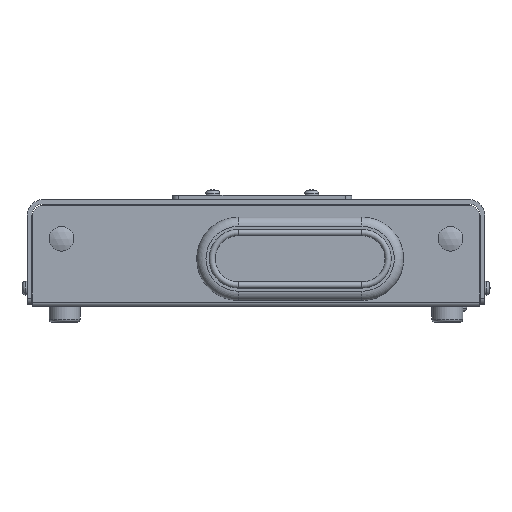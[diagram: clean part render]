
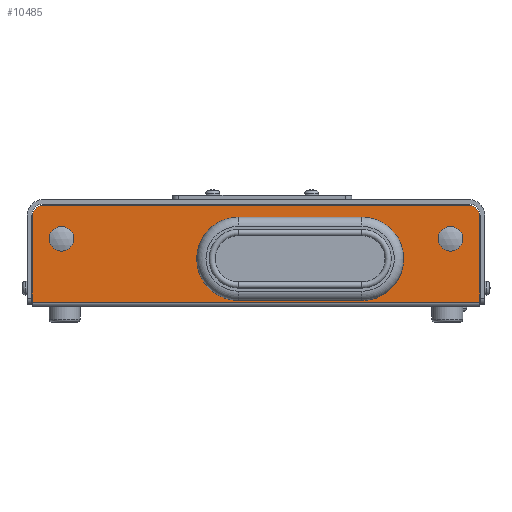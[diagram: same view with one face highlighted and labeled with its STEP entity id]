
A CAD part, left-side view. The second image highlights one B-rep face of the part: STEP entity #10485.
In plain terms, the highlighted planar face has unit normal (-1, 0, 0) as drawn and (0, 1, 0) by its records, which use the part's own axes.
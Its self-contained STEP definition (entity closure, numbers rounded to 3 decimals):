
#362=FACE_BOUND('',#1678,.T.);
#363=FACE_BOUND('',#1679,.T.);
#364=FACE_BOUND('',#1680,.T.);
#608=PLANE('',#11531);
#1098=FACE_OUTER_BOUND('',#1677,.T.);
#1677=EDGE_LOOP('',(#9362,#9363,#9364,#9365,#9366,#9367));
#1678=EDGE_LOOP('',(#9368));
#1679=EDGE_LOOP('',(#9369));
#1680=EDGE_LOOP('',(#9370,#9371,#9372,#9373));
#2652=LINE('',#17864,#3670);
#2653=LINE('',#17868,#3671);
#2654=LINE('',#17870,#3672);
#2655=LINE('',#17872,#3673);
#2656=LINE('',#17882,#3674);
#2657=LINE('',#17885,#3675);
#3670=VECTOR('',#14238,10.);
#3671=VECTOR('',#14241,10.);
#3672=VECTOR('',#14242,10.);
#3673=VECTOR('',#14243,0.67);
#3674=VECTOR('',#14252,10.);
#3675=VECTOR('',#14255,10.);
#4248=CIRCLE('',#11532,4.);
#4249=CIRCLE('',#11533,4.);
#4250=CIRCLE('',#11534,3.25);
#4251=CIRCLE('',#11535,3.25);
#4252=CIRCLE('',#11536,10.);
#4253=CIRCLE('',#11537,10.);
#5170=VERTEX_POINT('',#17862);
#5171=VERTEX_POINT('',#17863);
#5172=VERTEX_POINT('',#17865);
#5173=VERTEX_POINT('',#17867);
#5174=VERTEX_POINT('',#17869);
#5175=VERTEX_POINT('',#17871);
#5176=VERTEX_POINT('',#17874);
#5177=VERTEX_POINT('',#17876);
#5178=VERTEX_POINT('',#17878);
#5179=VERTEX_POINT('',#17879);
#5180=VERTEX_POINT('',#17881);
#5181=VERTEX_POINT('',#17883);
#6611=EDGE_CURVE('',#5170,#5171,#2652,.T.);
#6612=EDGE_CURVE('',#5172,#5171,#4248,.T.);
#6613=EDGE_CURVE('',#5172,#5173,#2653,.T.);
#6614=EDGE_CURVE('',#5174,#5173,#2654,.T.);
#6615=EDGE_CURVE('',#5174,#5175,#2655,.T.);
#6616=EDGE_CURVE('',#5170,#5175,#4249,.T.);
#6617=EDGE_CURVE('',#5176,#5176,#4250,.T.);
#6618=EDGE_CURVE('',#5177,#5177,#4251,.T.);
#6619=EDGE_CURVE('',#5178,#5179,#4252,.T.);
#6620=EDGE_CURVE('',#5179,#5180,#2656,.T.);
#6621=EDGE_CURVE('',#5180,#5181,#4253,.T.);
#6622=EDGE_CURVE('',#5181,#5178,#2657,.T.);
#9362=ORIENTED_EDGE('',*,*,#6611,.T.);
#9363=ORIENTED_EDGE('',*,*,#6612,.F.);
#9364=ORIENTED_EDGE('',*,*,#6613,.T.);
#9365=ORIENTED_EDGE('',*,*,#6614,.F.);
#9366=ORIENTED_EDGE('',*,*,#6615,.T.);
#9367=ORIENTED_EDGE('',*,*,#6616,.F.);
#9368=ORIENTED_EDGE('',*,*,#6617,.T.);
#9369=ORIENTED_EDGE('',*,*,#6618,.T.);
#9370=ORIENTED_EDGE('',*,*,#6619,.T.);
#9371=ORIENTED_EDGE('',*,*,#6620,.T.);
#9372=ORIENTED_EDGE('',*,*,#6621,.T.);
#9373=ORIENTED_EDGE('',*,*,#6622,.T.);
#10485=ADVANCED_FACE('',(#1098,#362,#363,#364),#608,.T.);
#11531=AXIS2_PLACEMENT_3D('',#17861,#14236,#14237);
#11532=AXIS2_PLACEMENT_3D('',#17866,#14239,#14240);
#11533=AXIS2_PLACEMENT_3D('',#17873,#14244,#14245);
#11534=AXIS2_PLACEMENT_3D('',#17875,#14246,#14247);
#11535=AXIS2_PLACEMENT_3D('',#17877,#14248,#14249);
#11536=AXIS2_PLACEMENT_3D('',#17880,#14250,#14251);
#11537=AXIS2_PLACEMENT_3D('',#17884,#14253,#14254);
#14236=DIRECTION('center_axis',(0.,1.,0.));
#14237=DIRECTION('ref_axis',(-1.,0.,0.));
#14238=DIRECTION('',(1.,0.,0.));
#14239=DIRECTION('center_axis',(0.,-1.,0.));
#14240=DIRECTION('ref_axis',(0.707,0.,0.707));
#14241=DIRECTION('',(0.,0.,-1.));
#14242=DIRECTION('',(1.,0.,0.));
#14243=DIRECTION('',(0.,0.,1.));
#14244=DIRECTION('center_axis',(0.,-1.,0.));
#14245=DIRECTION('ref_axis',(-0.707,0.,0.707));
#14246=DIRECTION('center_axis',(0.,-1.,0.));
#14247=DIRECTION('ref_axis',(-1.,0.,0.));
#14248=DIRECTION('center_axis',(0.,-1.,0.));
#14249=DIRECTION('ref_axis',(-1.,0.,0.));
#14250=DIRECTION('center_axis',(0.,-1.,0.));
#14251=DIRECTION('ref_axis',(0.,0.,-1.));
#14252=DIRECTION('',(1.,0.,0.));
#14253=DIRECTION('center_axis',(0.,-1.,0.));
#14254=DIRECTION('ref_axis',(0.,0.,
1.));
#14255=DIRECTION('',(-1.,0.,0.));
#17861=CARTESIAN_POINT('Origin',(0.,53.25,17.479));
#17862=CARTESIAN_POINT('',(-68.5,53.25,32.9));
#17863=CARTESIAN_POINT('',(68.5,53.25,32.9));
#17864=CARTESIAN_POINT('',(72.5,53.25,32.9));
#17865=CARTESIAN_POINT('',(72.5,53.25,28.9));
#17866=CARTESIAN_POINT('Origin',(68.5,53.25,28.9));
#17867=CARTESIAN_POINT('',(72.5,53.25,1.5));
#17868=CARTESIAN_POINT('',(72.5,53.25,2.91));
#17869=CARTESIAN_POINT('',(-72.5,53.25,1.5));
#17870=CARTESIAN_POINT('',(0.,53.25,1.5));
#17871=CARTESIAN_POINT('',(-72.5,53.25,28.9));
#17872=CARTESIAN_POINT('',(-72.5,53.25,2.305));
#17873=CARTESIAN_POINT('Origin',(-68.5,53.25,28.9));
#17874=CARTESIAN_POINT('',(-59.75,53.25,22.));
#17875=CARTESIAN_POINT('Origin',(-63.,53.25,22.));
#17876=CARTESIAN_POINT('',(66.25,53.25,22.));
#17877=CARTESIAN_POINT('Origin',(63.,53.25,22.));
#17878=CARTESIAN_POINT('',(-34.3,53.25,25.5));
#17879=CARTESIAN_POINT('',(-34.3,53.25,5.5));
#17880=CARTESIAN_POINT('Origin',(-34.3,53.25,15.5));
#17881=CARTESIAN_POINT('',(5.7,53.25,5.5));
#17882=CARTESIAN_POINT('',(-23.3,53.25,5.5));
#17883=CARTESIAN_POINT('',(5.7,53.25,25.5));
#17884=CARTESIAN_POINT('Origin',(5.7,53.25,15.5));
#17885=CARTESIAN_POINT('',(-3.3,53.25,25.5));
